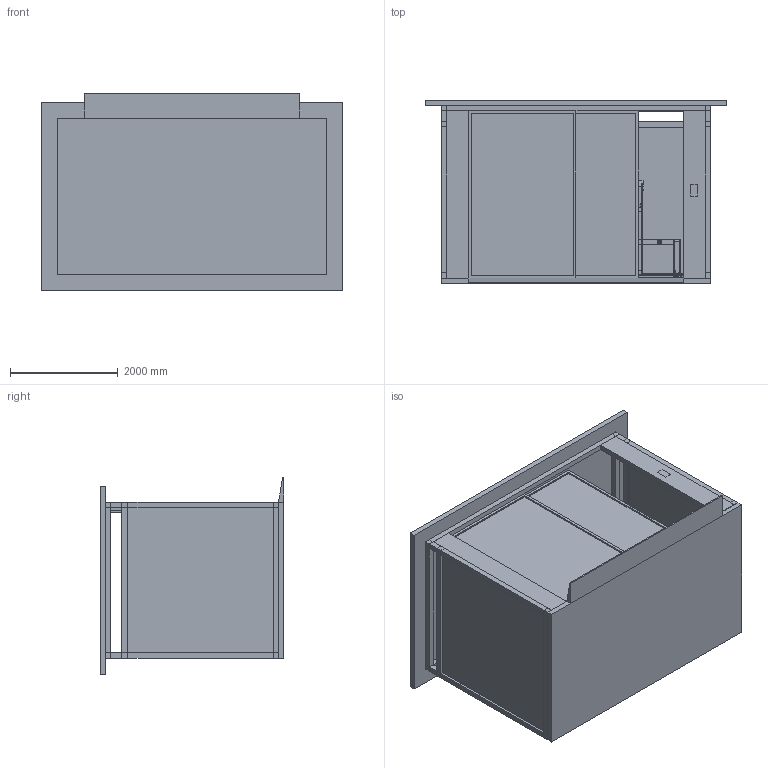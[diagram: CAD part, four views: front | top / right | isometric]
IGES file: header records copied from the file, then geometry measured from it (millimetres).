
Start section: SolidWorks IGES file using analytic representation for surfaces
Global section: file name: I:\(H)\(G) NEW PROJECT-BUSINESS\ULRICH PROJECT\WYE1810D\WYE1810D.IGS; native system: SolidWorks 2025; preprocessor: SolidWorks 2025; author: User; date: 251006.110552; units: centimetre
Bounding box: 5600 x 3415.03 x 3658.11 mm (x, y, z)
Surface area: 198158773.8 mm2 (no closed solid volume)
Topology: 0 solids, 0 shells, 2071 faces, 13106 edges, 13034 vertices
Faces by surface type: bspline 1740, revolution 331
